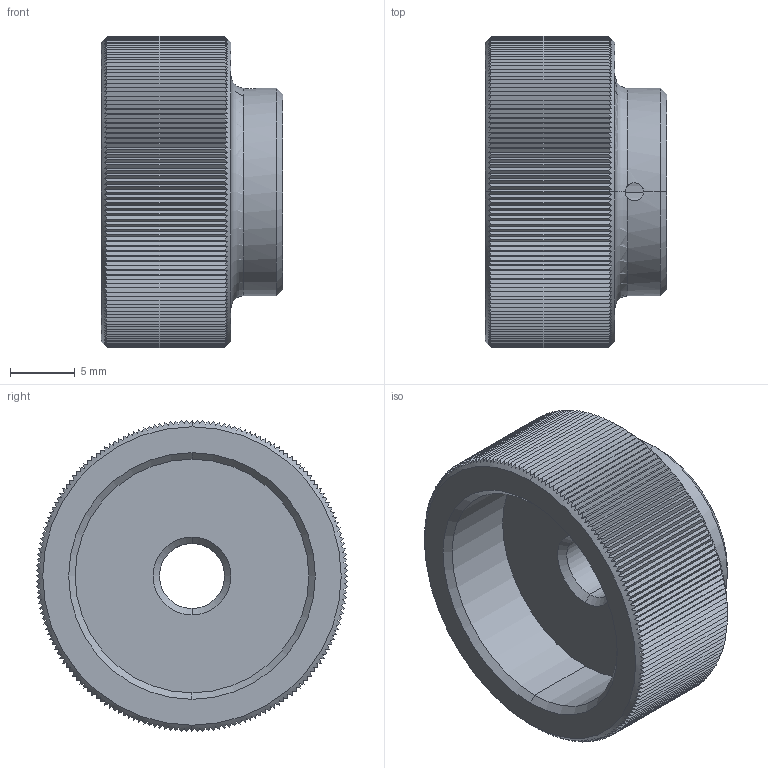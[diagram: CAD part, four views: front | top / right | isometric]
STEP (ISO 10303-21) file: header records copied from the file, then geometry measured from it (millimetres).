
FILE_DESCRIPTION (( 'STEP AP203' ), '1' );
FILE_NAME ('Default.step', '2011-09-15T08:08:55', ( 'Wixroyd' ), ( 'Wixroyd' ), 'SwSTEP 2.0', 'SolidWorks 2009', '' );
FILE_SCHEMA (( 'CONFIG_CONTROL_DESIGN' ));
Length unit declared in the file: millimetre
Products named in the file (1): Default
Bounding box: 14 x 24 x 24 mm (x, y, z)
Volume: 3526.8 mm3; surface area: 2576.8 mm2
Topology: 1 solids, 1 shells, 384 faces, 1131 edges, 749 vertices
Faces by surface type: plane 364, cone 10, cylinder 8, torus 2
Entity records: 13368 total; most frequent: CARTESIAN_POINT 4479, ORIENTED_EDGE 2262, DIRECTION 1201, EDGE_CURVE 1131, VERTEX_POINT 749, B_SPLINE_CURVE_WITH_KNOTS 726, AXIS2_PLACEMENT_3D 411, EDGE_LOOP 388
